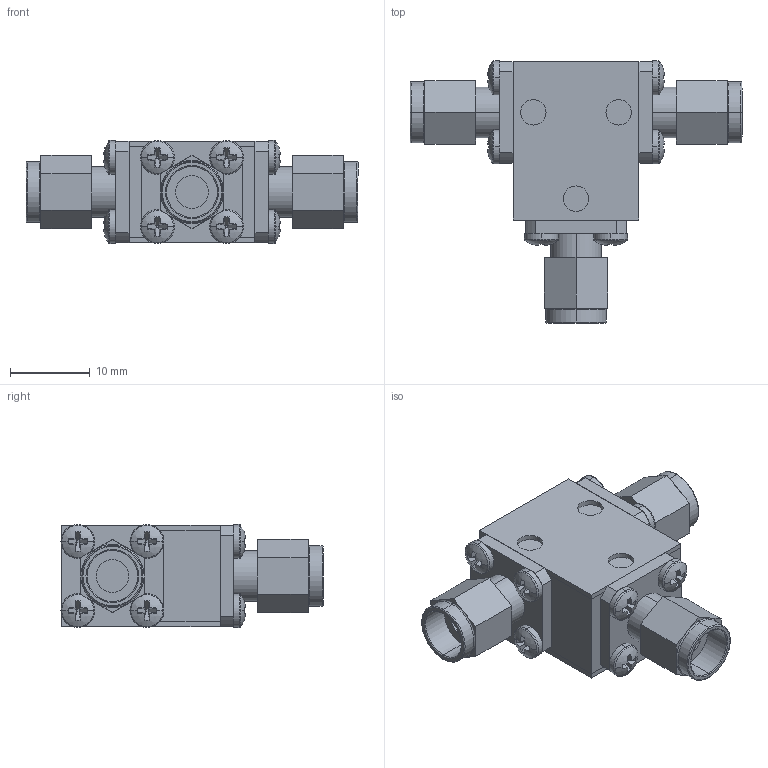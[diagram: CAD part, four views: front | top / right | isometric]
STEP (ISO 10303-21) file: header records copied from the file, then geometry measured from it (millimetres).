
FILE_DESCRIPTION (( 'STEP AP214' ), '1' );
FILE_NAME ('Package 6 Circ MMM.step', '2021-12-01T21:01:21', ( '' ), ( '' ), 'SwSTEP 2.0', 'SolidWorks 2016', '' );
FILE_SCHEMA (( 'AUTOMOTIVE_DESIGN' ));
Length unit declared in the file: inch
Products named in the file (5): Package 6; Package Size 6; Package 6 Circ MMM; Delta SMA-Male; pan cross head_ai_CR-PHMS 0.086-56x0.125x0.125-N
Assembly tree (17 placements, depth 2):
  Package 6 Circ MMM
    Package Size 6
    Package 6
    pan cross head_ai_CR-PHMS 0.086-56x0.125x0.125-N  x12
    Delta SMA-Male  x3
Bounding box: 41.5 x 32.78 x 12.88 mm (x, y, z)
Volume: 5823.2 mm3; surface area: 6534.5 mm2
Topology: 17 solids, 17 shells, 445 faces, 1014 edges, 624 vertices
Faces by surface type: plane 259, cylinder 120, torus 42, sphere 24
Entity records: 3248 total; most frequent: DIRECTION 584, CARTESIAN_POINT 504, ORIENTED_EDGE 472, EDGE_CURVE 236, AXIS2_PLACEMENT_3D 230, VERTEX_POINT 150, VECTOR 124, LINE 124
